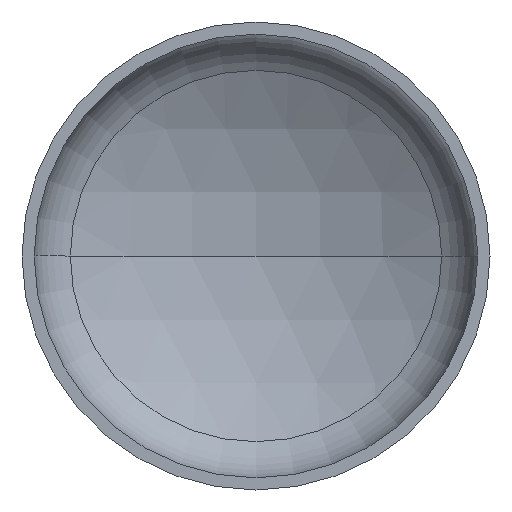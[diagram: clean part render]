
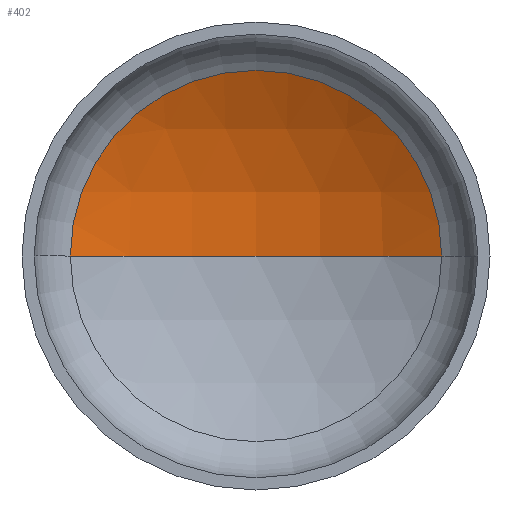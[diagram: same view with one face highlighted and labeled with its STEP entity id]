
A CAD part, front view. The second image highlights one B-rep face of the part: STEP entity #402.
In plain terms, the highlighted spherical face has radius 2400 mm.
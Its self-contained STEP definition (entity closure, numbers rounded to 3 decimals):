
#4 = CARTESIAN_POINT ( 'NONE',  ( -1190.103, 519.461, 0. ) ) ;
#5 = AXIS2_PLACEMENT_3D ( 'NONE', #240, #118, #361 ) ;
#21 = ORIENTED_EDGE ( 'NONE', *, *, #77, .T. ) ;
#30 = AXIS2_PLACEMENT_3D ( 'NONE', #269, #71, #285 ) ;
#32 = AXIS2_PLACEMENT_3D ( 'NONE', #204, #207, #175 ) ;
#38 = VERTEX_POINT ( 'NONE', #375 ) ;
#69 = EDGE_CURVE ( 'NONE', #38, #105, #141, .T. ) ;
#71 = DIRECTION ( 'NONE',  ( 0., 0., -1. ) ) ;
#77 = EDGE_CURVE ( 'NONE', #158, #38, #231, .T. ) ;
#79 = DIRECTION ( 'NONE',  ( 0., 0., -1. ) ) ;
#105 = VERTEX_POINT ( 'NONE', #4 ) ;
#118 = DIRECTION ( 'NONE',  ( 0., 0., 1. ) ) ;
#141 = CIRCLE ( 'NONE', #32, 1190.103 ) ;
#147 = SPHERICAL_SURFACE ( 'NONE', #401, 2400. ) ;
#158 = VERTEX_POINT ( 'NONE', #261 ) ;
#171 = ORIENTED_EDGE ( 'NONE', *, *, #69, .T. ) ;
#175 = DIRECTION ( 'NONE',  ( 1., 0., 0. ) ) ;
#190 = ORIENTED_EDGE ( 'NONE', *, *, #346, .F. ) ;
#204 = CARTESIAN_POINT ( 'NONE',  ( 0., 519.461, 0. ) ) ;
#207 = DIRECTION ( 'NONE',  ( 0., -1., 0. ) ) ;
#231 = CIRCLE ( 'NONE', #30, 2400. ) ;
#240 = CARTESIAN_POINT ( 'NONE',  ( 0., -1564.683, 0. ) ) ;
#261 = CARTESIAN_POINT ( 'NONE',  ( 0., 835.317, 0. ) ) ;
#262 = EDGE_LOOP ( 'NONE', ( #190, #21, #171 ) ) ;
#269 = CARTESIAN_POINT ( 'NONE',  ( 0., -1564.683, 0. ) ) ;
#285 = DIRECTION ( 'NONE',  ( -1., 0., 0. ) ) ;
#289 = DIRECTION ( 'NONE',  ( -1., 0., 0. ) ) ;
#297 = FACE_OUTER_BOUND ( 'NONE', #262, .T. ) ;
#314 = CIRCLE ( 'NONE', #5, 2400. ) ;
#318 = CARTESIAN_POINT ( 'NONE',  ( 0., -1564.683, 0. ) ) ;
#346 = EDGE_CURVE ( 'NONE', #158, #105, #314, .T. ) ;
#361 = DIRECTION ( 'NONE',  ( 1., 0., 0. ) ) ;
#375 = CARTESIAN_POINT ( 'NONE',  ( 1190.103, 519.461, 0. ) ) ;
#401 = AXIS2_PLACEMENT_3D ( 'NONE', #318, #79, #289 ) ;
#402 = ADVANCED_FACE ( 'NONE', ( #297 ), #147, .F. ) ;
